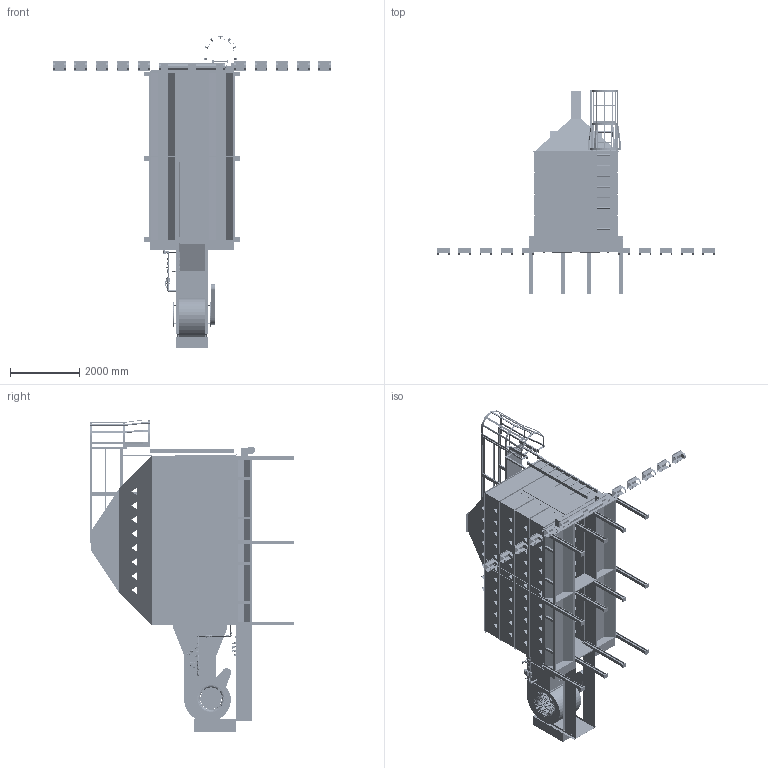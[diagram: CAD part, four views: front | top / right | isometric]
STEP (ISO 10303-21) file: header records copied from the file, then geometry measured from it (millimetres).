
FILE_DESCRIPTION(/* description */ ('PLAN AND ELEVATION VIEW FOR D1660 WITH ROOF & GRAVITY FILL'),/* implementation_level */ '2;1');
FILE_NAME(/* name */ 'C:\Engineering\Designs\Sales\Dryer\Workspaces\D16 All\D1660GF.stp',/* time_stamp */ '2025-01-06T16:38:59-06:00',/* author */ ('max.fleming'),/* organization */ (''),/* preprocessor_version */ 'ST-DEVELOPER v18.1',/* originating_system */ 'Autodesk Inventor 2022',/* authorisation */ '');
FILE_SCHEMA (('AUTOMOTIVE_DESIGN { 1 0 10303 214 3 1 1 }'));
Products named in the file (22): D1660GF; 16FT FRAME; 8FT LHRH FRAME; 16FT Grav Assy; 16FT ROOF GF; 8FTRoof GF LHRH; Tongue; 16FT BODY TIER; LH Body; RH Body; LH Body_MIR6; RH Body_MIR6; Outside Splice; Standard Size End Plenum Panels; Ladder 2' section; Trans & Blower; Belt Shield; Screen Guard; LP Fuel; 6'' CROSS AUGER; Leg Kit-02; 16FT CATWALK
Assembly tree (46 placements, depth 3):
  D1660GF
    16FT FRAME
      8FT LHRH FRAME  x2
    16FT Grav Assy
    16FT ROOF GF
      8FTRoof GF LHRH  x2
    Tongue
    16FT BODY TIER  x4
      LH Body
      RH Body
      LH Body_MIR6
      RH Body_MIR6
      Outside Splice
    Leg Kit-02  x12
    Standard Size End Plenum Panels  x5
    Trans & Blower  x2
    Belt Shield  x2
    Screen Guard  x4
    LP Fuel  x2
    16FT CATWALK
  Ladder 2' section
  6'' CROSS AUGER
Bounding box: 8007.35 x 5901.14 x 9028.52 mm (x, y, z)
Volume: 30166946391.1 mm3; surface area: 401241847.8 mm2
Topology: 347 solids, 503 shells, 32529 faces, 84424 edges, 53716 vertices
Faces by surface type: plane 13959, cylinder 9842, bspline 3710, cone 3256, torus 1584, sphere 178
Full cylindrical faces by diameter (mm): 1 x10, 1.651 x6, 1.753 x6, 1.778 x12, 2.019 x4, 2.108 x2, 2.286 x24, 2.489 x2, 2.54 x4, 3.091 x288, 3.175 x4, 3.251 x20, 3.306 x288, 3.522 x2, 3.658 x28, 3.8 x16, 4 x384, 4.039 x20, 4.166 x256, 4.191 x4, 4.229 x2, 4.267 x2, 4.369 x8, 4.445 x8, 4.701 x592, 4.762 x16, 4.851 x8, 4.928 x32, 5.283 x2, 5.527 x20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
Entity records: 707826 total; most frequent: CARTESIAN_POINT 326999, ORIENTED_EDGE 79942, DIRECTION 71180, EDGE_CURVE 40111, VERTEX_POINT 25581, AXIS2_PLACEMENT_3D 24902, LINE 21376, VECTOR 21376
